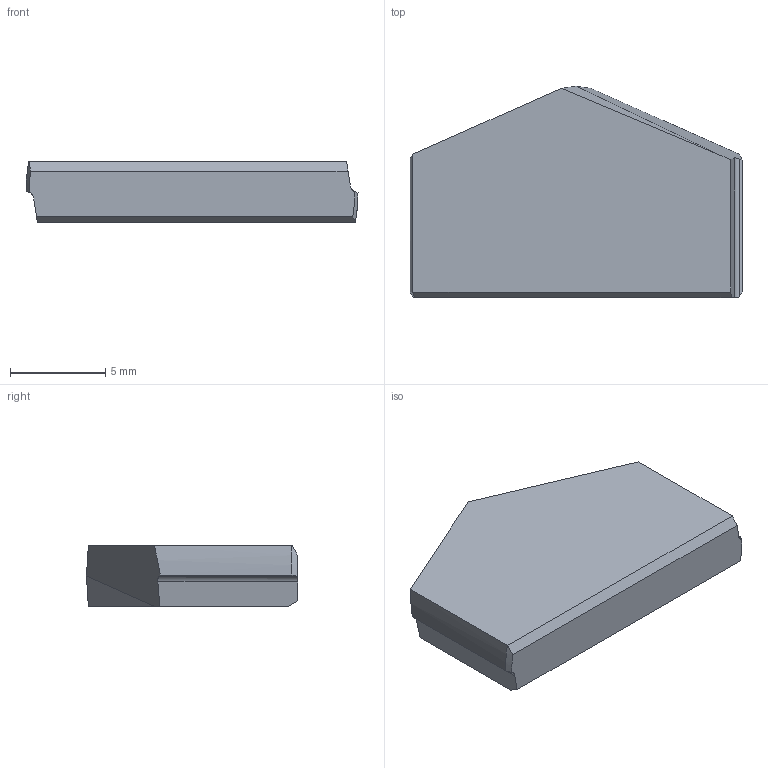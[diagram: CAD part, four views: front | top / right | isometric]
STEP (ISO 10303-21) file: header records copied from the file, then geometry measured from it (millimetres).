
FILE_DESCRIPTION (( 'STEP AP214' ), '1' );
FILE_NAME ('11-16.STEP', '2022-06-24T05:42:27', ( '' ), ( '' ), 'SwSTEP 2.0', 'SolidWorks 2018', '' );
FILE_SCHEMA (( 'AUTOMOTIVE_DESIGN' ));
Length unit declared in the file: millimetre
Products named in the file (1): 11-16
Bounding box: 17.46 x 11.1 x 3.2 mm (x, y, z)
Volume: 496.4 mm3; surface area: 464.1 mm2
Topology: 1 solids, 1 shells, 19 faces, 50 edges, 33 vertices
Faces by surface type: plane 13, cylinder 4, cone 2
Entity records: 622 total; most frequent: CARTESIAN_POINT 139, ORIENTED_EDGE 100, DIRECTION 84, EDGE_CURVE 50, VERTEX_POINT 33, VECTOR 32, LINE 32, AXIS2_PLACEMENT_3D 26
